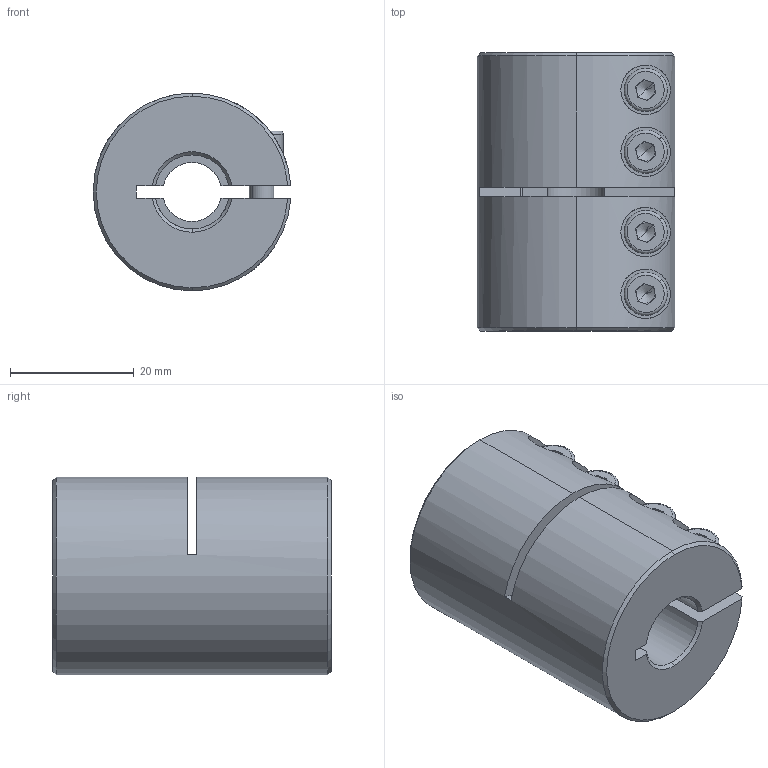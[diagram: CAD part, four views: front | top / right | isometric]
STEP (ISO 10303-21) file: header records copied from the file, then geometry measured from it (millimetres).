
FILE_DESCRIPTION (( 'STEP AP214' ), '1' );
FILE_NAME ('LL-B-D32L45-9.525-12½¨Ä£.STEP', '2022-09-20T06:11:36', ( '' ), ( '' ), 'SwSTEP 2.0', 'SolidWorks 2022', '' );
FILE_SCHEMA (( 'AUTOMOTIVE_DESIGN' ));
Length unit declared in the file: millimetre
Products named in the file (1): LL-B-D32L45-9.525-12膘耀
Bounding box: 31.97 x 45 x 32 mm (x, y, z)
Volume: 29611.3 mm3; surface area: 10797.9 mm2
Topology: 1 solids, 1 shells, 193 faces, 492 edges, 309 vertices
Faces by surface type: plane 88, cylinder 77, cone 20, torus 8
Entity records: 7666 total; most frequent: CARTESIAN_POINT 2331, DIRECTION 1037, ORIENTED_EDGE 968, EDGE_CURVE 484, AXIS2_PLACEMENT_3D 403, VERTEX_POINT 309, LINE 231, VECTOR 231
